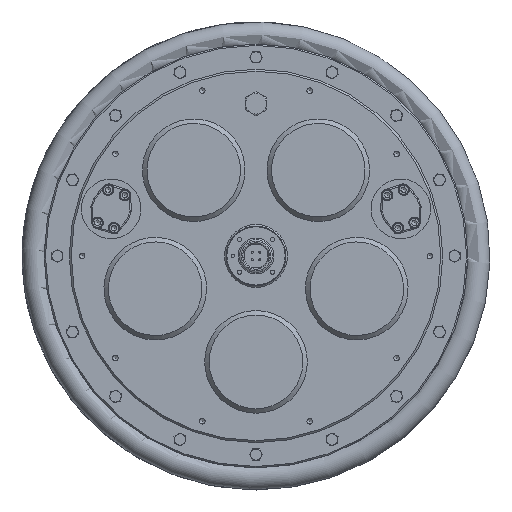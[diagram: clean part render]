
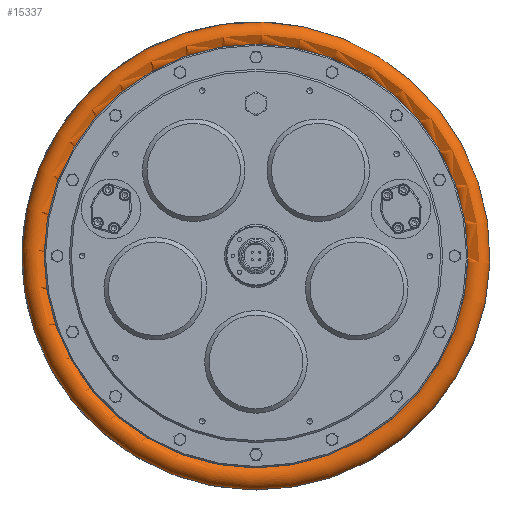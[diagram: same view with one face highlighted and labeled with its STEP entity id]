
A CAD part, front view. The second image highlights one B-rep face of the part: STEP entity #15337.
In plain terms, the highlighted toroidal (fillet/blend) face has major radius 333.487 mm and minor radius 20.013 mm.
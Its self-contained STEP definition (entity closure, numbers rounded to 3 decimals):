
#53=TOROIDAL_SURFACE('',#16602,333.487,20.013);
#3033=FACE_BOUND('',#4747,.T.);
#3540=FACE_OUTER_BOUND('',#4746,.T.);
#4746=EDGE_LOOP('',(#10657));
#4747=EDGE_LOOP('',(#10658));
#6027=CIRCLE('',#16601,317.686);
#6028=CIRCLE('',#16603,317.686);
#6834=VERTEX_POINT('',#23309);
#6835=VERTEX_POINT('',#23312);
#8284=EDGE_CURVE('',#6834,#6834,#6027,.T.);
#8285=EDGE_CURVE('',#6835,#6835,#6028,.T.);
#10657=ORIENTED_EDGE('',*,*,#8285,.F.);
#10658=ORIENTED_EDGE('',*,*,#8284,.T.);
#15337=ADVANCED_FACE('',(#3540,#3033),#53,.T.);
#16601=AXIS2_PLACEMENT_3D('',#23310,#18921,#18922);
#16602=AXIS2_PLACEMENT_3D('',#23311,#18923,#18924);
#16603=AXIS2_PLACEMENT_3D('',#23313,#18925,#18926);
#18921=DIRECTION('center_axis',(0.,-1.,0.));
#18922=DIRECTION('ref_axis',(1.,0.,-0.029));
#18923=DIRECTION('center_axis',(0.,-1.,0.));
#18924=DIRECTION('ref_axis',(-0.029,0.,-1.));
#18925=DIRECTION('center_axis',(0.,-1.,0.));
#18926=DIRECTION('ref_axis',(0.,0.,-1.));
#23309=CARTESIAN_POINT('',(317.553,524.811,-9.189));
#23310=CARTESIAN_POINT('Origin',(0.,524.811,
0.));
#23311=CARTESIAN_POINT('Origin',(0.,512.53,
0.));
#23312=CARTESIAN_POINT('',(317.553,500.25,-9.189));
#23313=CARTESIAN_POINT('Origin',(0.,500.25,0.));
